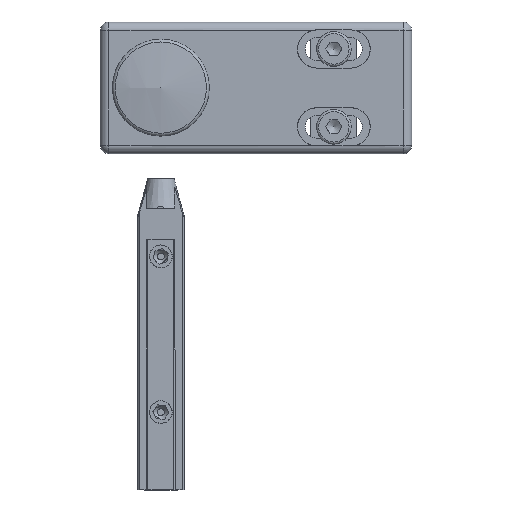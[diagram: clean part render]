
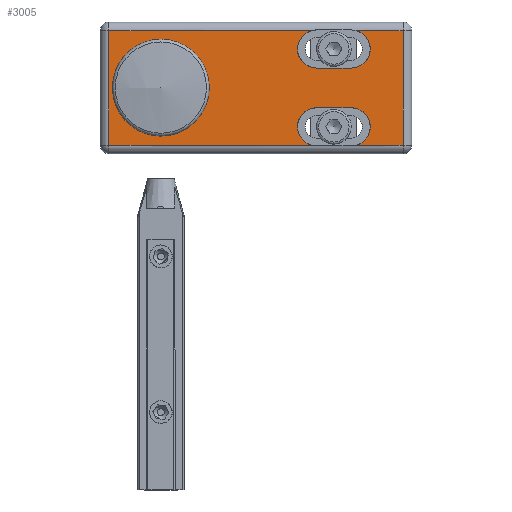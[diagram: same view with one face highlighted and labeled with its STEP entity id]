
A CAD part, top view. The second image highlights one B-rep face of the part: STEP entity #3005.
In plain terms, the highlighted planar face has unit normal (0, 0, 1).
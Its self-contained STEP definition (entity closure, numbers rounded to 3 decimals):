
#241=FACE_BOUND('',#563,.T.);
#261=PLANE('',#3399);
#382=FACE_OUTER_BOUND('',#562,.T.);
#562=EDGE_LOOP('',(#2083,#2084,#2085,#2086,#2087,#2088,#2089,#2090,#2091,
#2092,#2093,#2094));
#563=EDGE_LOOP('',(#2095));
#754=LINE('',#4556,#960);
#755=LINE('',#4565,#961);
#757=LINE('',#4572,#963);
#760=LINE('',#4588,#966);
#761=LINE('',#4598,#967);
#763=LINE('',#4605,#969);
#767=LINE('',#4628,#973);
#768=LINE('',#4632,#974);
#960=VECTOR('',#3707,10.);
#961=VECTOR('',#3710,10.);
#963=VECTOR('',#3716,10.);
#966=VECTOR('',#3729,10.);
#967=VECTOR('',#3736,10.);
#969=VECTOR('',#3742,10.);
#973=VECTOR('',#3764,10.);
#974=VECTOR('',#3769,10.);
#1177=CIRCLE('',#3397,5.5);
#1179=CIRCLE('',#3400,5.5);
#1180=CIRCLE('',#3401,5.5);
#1181=CIRCLE('',#3402,5.5);
#1182=CIRCLE('',#3403,7.188);
#1288=VERTEX_POINT('',#4549);
#1291=VERTEX_POINT('',#4554);
#1293=VERTEX_POINT('',#4559);
#1294=VERTEX_POINT('',#4564);
#1297=VERTEX_POINT('',#4571);
#1299=VERTEX_POINT('',#4582);
#1303=VERTEX_POINT('',#4593);
#1306=VERTEX_POINT('',#4604);
#1308=VERTEX_POINT('',#4617);
#1311=VERTEX_POINT('',#4625);
#1312=VERTEX_POINT('',#4627);
#1313=VERTEX_POINT('',#4630);
#1314=VERTEX_POINT('',#4633);
#1588=EDGE_CURVE('',#1291,#1288,#754,.T.);
#1590=EDGE_CURVE('',#1293,#1294,#755,.T.);
#1594=EDGE_CURVE('',#1288,#1297,#757,.T.);
#1601=EDGE_CURVE('',#1294,#1299,#760,.T.);
#1604=EDGE_CURVE('',#1303,#1291,#761,.T.);
#1608=EDGE_CURVE('',#1299,#1306,#763,.T.);
#1613=EDGE_CURVE('',#1308,#1297,#1177,.T.);
#1617=EDGE_CURVE('',#1303,#1311,#1179,.T.);
#1618=EDGE_CURVE('',#1311,#1312,#767,.T.);
#1619=EDGE_CURVE('',#1312,#1306,#1180,.T.);
#1620=EDGE_CURVE('',#1293,#1313,#1181,.T.);
#1621=EDGE_CURVE('',#1313,#1308,#768,.T.);
#1622=EDGE_CURVE('',#1314,#1314,#1182,.T.);
#2083=ORIENTED_EDGE('',*,*,#1594,.F.);
#2084=ORIENTED_EDGE('',*,*,#1588,.F.);
#2085=ORIENTED_EDGE('',*,*,#1604,.F.);
#2086=ORIENTED_EDGE('',*,*,#1617,.T.);
#2087=ORIENTED_EDGE('',*,*,#1618,.T.);
#2088=ORIENTED_EDGE('',*,*,#1619,.T.);
#2089=ORIENTED_EDGE('',*,*,#1608,.F.);
#2090=ORIENTED_EDGE('',*,*,#1601,.F.);
#2091=ORIENTED_EDGE('',*,*,#1590,.F.);
#2092=ORIENTED_EDGE('',*,*,#1620,.T.);
#2093=ORIENTED_EDGE('',*,*,#1621,.T.);
#2094=ORIENTED_EDGE('',*,*,#1613,.T.);
#2095=ORIENTED_EDGE('',*,*,#1622,.T.);
#3005=ADVANCED_FACE('',(#382,#241),#261,.T.);
#3397=AXIS2_PLACEMENT_3D('',#4618,#3754,#3755);
#3399=AXIS2_PLACEMENT_3D('',#4624,#3760,#3761);
#3400=AXIS2_PLACEMENT_3D('',#4626,#3762,#3763);
#3401=AXIS2_PLACEMENT_3D('',#4629,#3765,#3766);
#3402=AXIS2_PLACEMENT_3D('',#4631,#3767,#3768);
#3403=AXIS2_PLACEMENT_3D('',#4634,#3770,#3771);
#3707=DIRECTION('',(0.,1.,0.));
#3710=DIRECTION('',(1.,0.,0.));
#3716=DIRECTION('',(1.,0.,0.));
#3729=DIRECTION('',(0.,-1.,0.));
#3736=DIRECTION('',(-1.,0.,0.));
#3742=DIRECTION('',(-1.,0.,0.));
#3754=DIRECTION('center_axis',(0.,0.,-1.));
#3755=DIRECTION('ref_axis',(0.,1.,0.));
#3760=DIRECTION('center_axis',(0.,0.,1.));
#3761=DIRECTION('ref_axis',(1.,0.,0.));
#3762=DIRECTION('center_axis',(0.,0.,-1.));
#3763=DIRECTION('ref_axis',(0.,1.,0.));
#3764=DIRECTION('',(1.,0.,0.));
#3765=DIRECTION('center_axis',(0.,0.,-1.));
#3766=DIRECTION('ref_axis',(0.,-1.,0.));
#3767=DIRECTION('center_axis',(0.,0.,-1.));
#3768=DIRECTION('ref_axis',(0.,-1.,0.));
#3769=DIRECTION('',(-1.,0.,0.));
#3770=DIRECTION('center_axis',(0.,0.,-1.));
#3771=DIRECTION('ref_axis',(1.,0.,0.));
#4549=CARTESIAN_POINT('',(-42.5,16.55,12.7));
#4554=CARTESIAN_POINT('',(-42.5,-16.55,12.7));
#4556=CARTESIAN_POINT('',(-42.5,9.525,12.7));
#4559=CARTESIAN_POINT('',(-16.03,16.55,12.7));
#4564=CARTESIAN_POINT('',(42.5,16.55,12.7));
#4565=CARTESIAN_POINT('',(22.5,16.55,12.7));
#4571=CARTESIAN_POINT('',(-28.97,16.55,12.7));
#4572=CARTESIAN_POINT('',(22.5,16.55,12.7));
#4582=CARTESIAN_POINT('',(42.5,-16.55,12.7));
#4588=CARTESIAN_POINT('',(42.5,-9.525,12.7));
#4593=CARTESIAN_POINT('',(-28.97,-16.55,12.7));
#4598=CARTESIAN_POINT('',(-22.5,-16.55,12.7));
#4604=CARTESIAN_POINT('',(-16.03,-16.55,12.7));
#4605=CARTESIAN_POINT('',(-22.5,-16.55,12.7));
#4617=CARTESIAN_POINT('',(-27.5,5.75,12.7));
#4618=CARTESIAN_POINT('Origin',(-27.5,11.25,12.7));
#4624=CARTESIAN_POINT('Origin',(0.,0.,12.7));
#4625=CARTESIAN_POINT('',(-27.5,-5.75,12.7));
#4626=CARTESIAN_POINT('Origin',(-27.5,-11.25,12.7));
#4627=CARTESIAN_POINT('',(-17.5,-5.75,12.7));
#4628=CARTESIAN_POINT('',(-13.75,-5.75,12.7));
#4629=CARTESIAN_POINT('Origin',(-17.5,-11.25,12.7));
#4630=CARTESIAN_POINT('',(-17.5,5.75,12.7));
#4631=CARTESIAN_POINT('Origin',(-17.5,11.25,12.7));
#4632=CARTESIAN_POINT('',(-8.75,5.75,12.7));
#4633=CARTESIAN_POINT('',(20.312,0.,12.7));
#4634=CARTESIAN_POINT('Origin',(27.5,0.,12.7));
